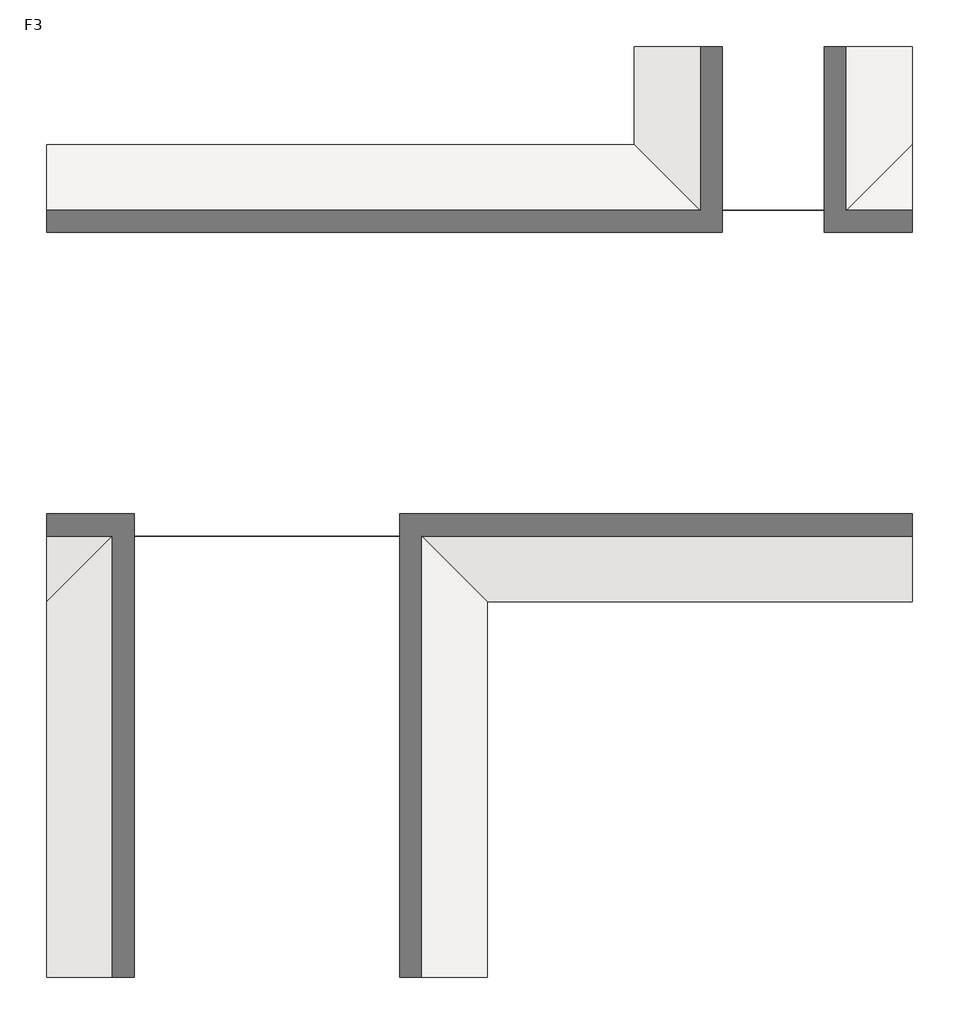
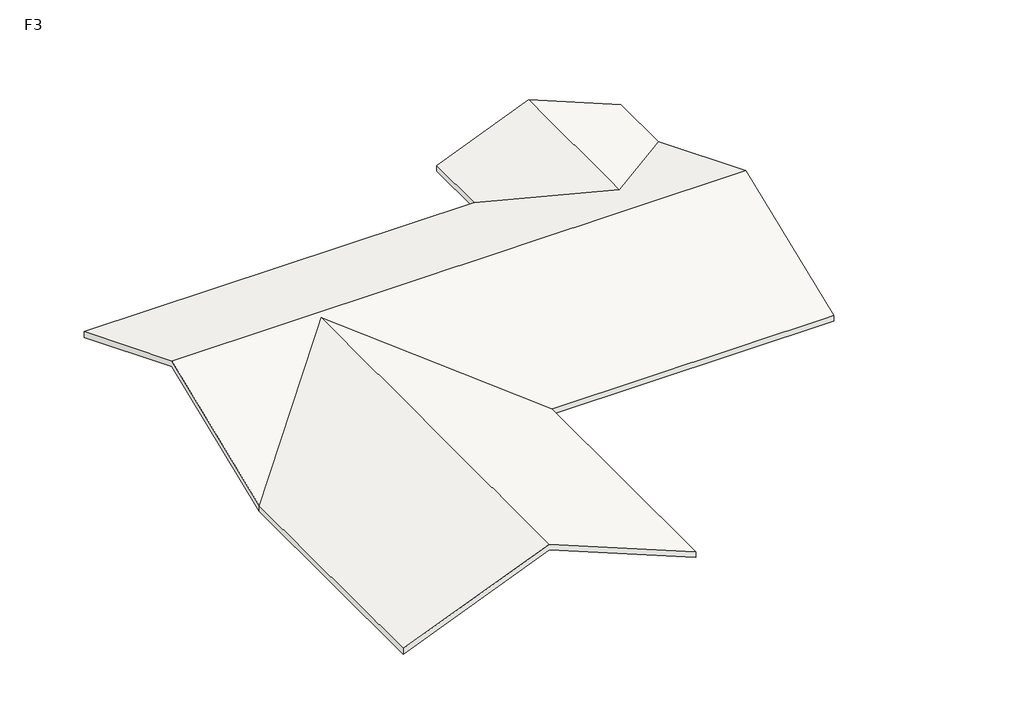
# One storey: 1 roof.
"""IFC4 building model written with IfcOpenShell, lengths in millimetres."""

from ifc_helpers import new_model, si_unit, origin, place, context, project, spatial, faceted_brep, element, save

model = new_model("IFC4")

# Units and contexts
model_context = context("Model", 3, world=origin())
ifc_project = project(units=[si_unit("LENGTHUNIT", "METRE", prefix="MILLI")], contexts=[model_context])

# Site, building, storey
site = spatial("IfcSite", under=ifc_project)
building = spatial("IfcBuilding", under=site)
storey = spatial("IfcBuildingStorey", under=building, Name="F3", Elevation=6300.0)

# Roof
placement = place(None, origin())
element("IfcRoof", 1, ObjectType="屋顶 2", at=placement, inside=storey, context=model_context, shape_type="Brep", body=[
    faceted_brep([(-4105.9782681, 1068.9713095, 7877.6783925), (-1555.9782681, 1068.9713095, 6847.4115166), (-1555.9782681, -731.0286905, 6847.4115166), (-4105.9782681, -3281.0286905, 7877.6783925), (-6655.9782681, -731.0286905, 6847.4115166), (-6655.9782681, 1068.9713095, 6847.4115166), (-9355.9782681, -16031.0286905, 6847.4115166), (-13405.9782681, -16031.0286905, 8483.7177313), (-13405.9782681, -5081.0286905, 8483.7177313), (-9355.9782681, -9131.0286905, 6847.4115166), (-17455.9782681, -16031.0286905, 6847.4115166), (-17455.9782681, -9131.0286905, 6847.4115166), (-1555.9782681, -4931.0286905, 8544.3216651), (-17455.9782681, -4931.0286905, 8544.3216651), (-17455.9782681, -731.0286905, 6847.4115166), (-1555.9782681, -9131.0286905, 6847.4115166), (-1555.9782681, 1068.9713095, 7011.7802114), (-4105.9782681, 1068.9713095, 8042.0470873), (-4105.9782681, -3281.0286905, 8042.0470873), (-1555.9782681, -731.0286905, 7011.7802114), (-6655.9782681, 1068.9713095, 7011.7802114), (-6655.9782681, -731.0286905, 7011.7802114), (-9355.9782681, -16031.0286905, 7011.7802114), (-9355.9782681, -9131.0286905, 7011.7802114), (-13405.9782681, -5081.0286905, 8648.086426), (-13405.9782681, -16031.0286905, 8648.086426), (-17455.9782681, -9131.0286905, 7011.7802114), (-17455.9782681, -16031.0286905, 7011.7802114), (-17455.9782681, -731.0286905, 7011.7802114), (-17455.9782681, -4931.0286905, 8708.6903599), (-1555.9782681, -4931.0286905, 8708.6903599), (-1555.9782681, -9131.0286905, 7011.7802114)], [[[0, 1, 2, 3]], [[4, 5, 0, 3]], [[6, 7, 8, 9]], [[10, 11, 8, 7]], [[4, 3, 2, 12, 13, 14]], [[8, 11, 13, 12, 15, 9]], [[16, 17, 18, 19]], [[20, 21, 18, 17]], [[22, 23, 24, 25]], [[26, 27, 25, 24]], [[21, 28, 29, 30, 19, 18]], [[26, 24, 23, 31, 30, 29]], [[4, 21, 20, 5]], [[14, 28, 21, 4]], [[10, 27, 26, 11]], [[9, 23, 22, 6]], [[15, 31, 23, 9]], [[1, 16, 19, 2]], [[20, 17, 16, 1, 0, 5]], [[26, 29, 28, 14, 13, 11]], [[22, 25, 27, 10, 7, 6]], [[19, 30, 31, 15, 12, 2]]]),
])

save(model, "model.ifc")
